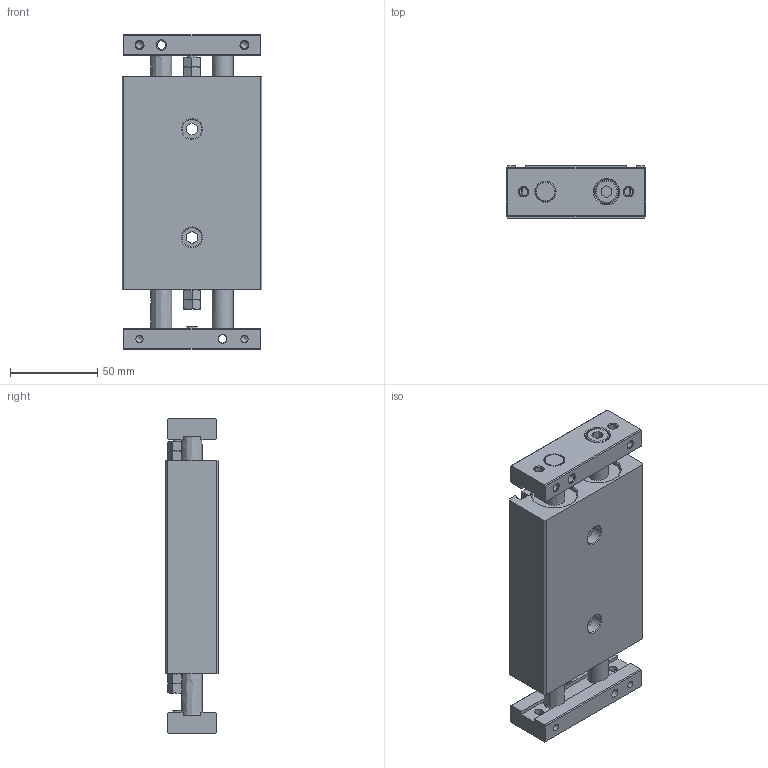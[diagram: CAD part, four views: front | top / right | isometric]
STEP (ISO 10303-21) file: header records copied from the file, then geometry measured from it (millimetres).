
FILE_DESCRIPTION((''),'2;1');
FILE_NAME('I:\3D電子目錄\氣缸\STX\STX\STX25\STX25x10.stp','2007-10-02T08:49:59',('Administrator'),(''),'Autodesk Inventor 11','Autodesk Inventor 11','');
FILE_SCHEMA(('AUTOMOTIVE_DESIGN { 1 0 10303 214 1 1 1 1 }'));
Length unit declared in the file: millimetre
Products named in the file (1): STX25
Bounding box: 80 x 30 x 180 mm (x, y, z)
Volume: 329615 mm3; surface area: 60041.6 mm2
Topology: 1 solids, 1 shells, 274 faces, 653 edges, 406 vertices
Faces by surface type: plane 127, cone 75, bspline 46, cylinder 22, torus 4
Full cylindrical faces by diameter (mm): 4.134 x4, 6 x2, 11 x2, 12 x4, 12.2 x2, 13 x2, 14 x2, 26 x2, 27.4 x2
Entity records: 8035 total; most frequent: CARTESIAN_POINT 2555, ORIENTED_EDGE 1058, DIRECTION 1056, EDGE_CURVE 529, EDGE_LOOP 420, AXIS2_PLACEMENT_3D 402, VERTEX_POINT 373, FACE_OUTER_BOUND 274
